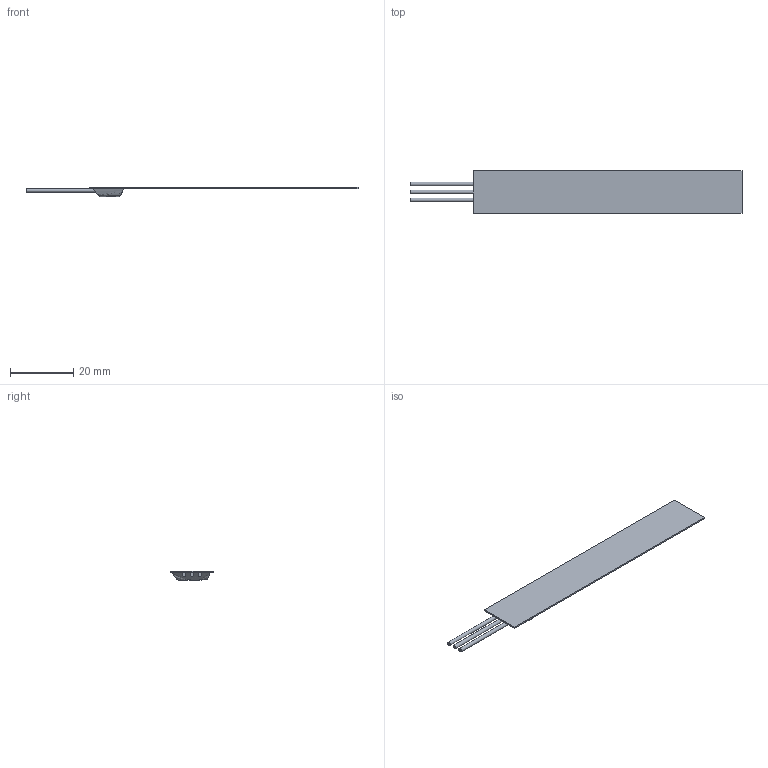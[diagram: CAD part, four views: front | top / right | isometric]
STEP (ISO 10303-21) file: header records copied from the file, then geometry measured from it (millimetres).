
FILE_DESCRIPTION(/* description */ ('UFPMA060A472XWB'),/* implementation_level */ '2;1');
FILE_NAME(/* name */ 'UFPMA060A472XWB',/* time_stamp */ '2017-12-07T12:02:31+01:00',/* author */ ('VISHAY'),/* organization */ ('VISHAY'),/* preprocessor_version */ 'ST-DEVELOPER v16.7',/* originating_system */ 'DEX',/* authorisation */ $);
FILE_SCHEMA (('AUTOMOTIVE_DESIGN {1 0 10303 214 3 1 1}'));
Length unit declared in the file: millimetre
Products named in the file (4): UFPMAxxxA472XWB; UFPMA060_Body; Wires; Potting
Assembly tree (3 placements, depth 2):
  UFPMAxxxA472XWB
    UFPMA060_Body
    Wires
    Potting
Bounding box: 105 x 13.5 x 3.02 mm (x, y, z)
Volume: 825 mm3; surface area: 3031.5 mm2
Topology: 5 solids, 5 shells, 239 faces, 579 edges, 386 vertices
Faces by surface type: plane 187, bspline 45, cylinder 7
Full cylindrical faces by diameter (mm): 0.8 x3, 1.2 x3
Entity records: 8854 total; most frequent: CARTESIAN_POINT 3454, ORIENTED_EDGE 1136, DIRECTION 892, EDGE_CURVE 568, LINE 468, VECTOR 468, VERTEX_POINT 386, EDGE_LOOP 286
